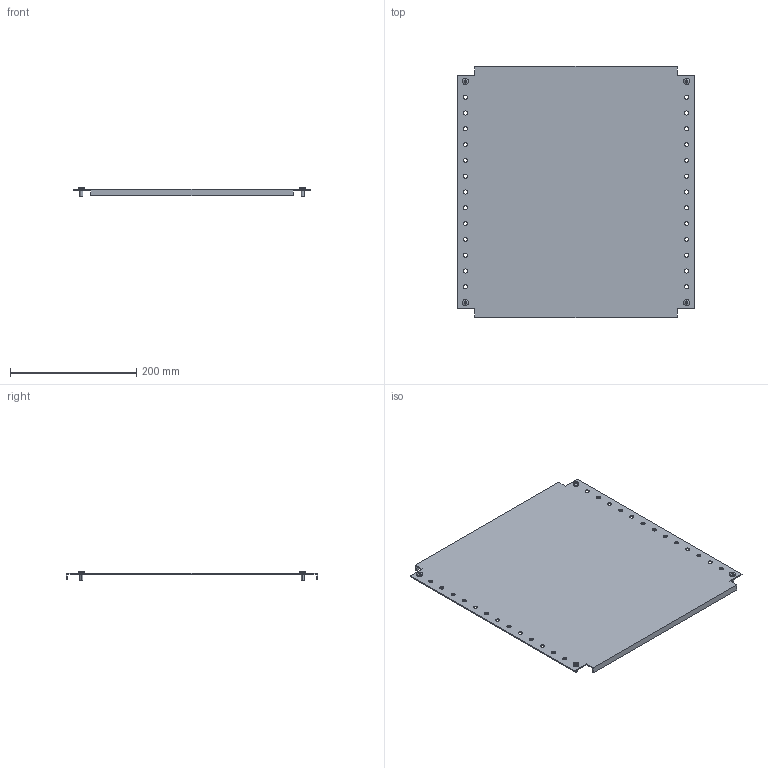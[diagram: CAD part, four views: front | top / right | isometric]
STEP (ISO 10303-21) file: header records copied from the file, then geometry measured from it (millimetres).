
FILE_DESCRIPTION (( 'STEP AP203' ), '1' );
FILE_NAME ('R6MPP04450.STEP', '2025-05-16T08:13:51', ( '' ), ( '' ), 'SwSTEP 2.0', 'SolidWorks 2022', '' );
FILE_SCHEMA (( 'CONFIG_CONTROL_DESIGN' ));
Length unit declared in the file: millimetre
Products named in the file (3): RB.3313.00.00.0 simple_-11; R6MPP04450; M5x12 DIN 7500 C Torx Zinc_stright
Assembly tree (5 placements, depth 2):
  R6MPP04450
    RB.3313.00.00.0 simple_-11
    M5x12 DIN 7500 C Torx Zinc_stright  x4
Bounding box: 375 x 398 x 15.56 mm (x, y, z)
Volume: 275096.2 mm3; surface area: 309442.7 mm2
Topology: 5 solids, 5 shells, 182 faces, 452 edges, 276 vertices
Faces by surface type: cylinder 76, plane 58, cone 16, torus 16, bspline 8, sphere 8
Entity records: 4239 total; most frequent: CARTESIAN_POINT 825, DIRECTION 670, ORIENTED_EDGE 600, EDGE_CURVE 300, AXIS2_PLACEMENT_3D 264, VERTEX_POINT 195, EDGE_LOOP 171, CIRCLE 148
